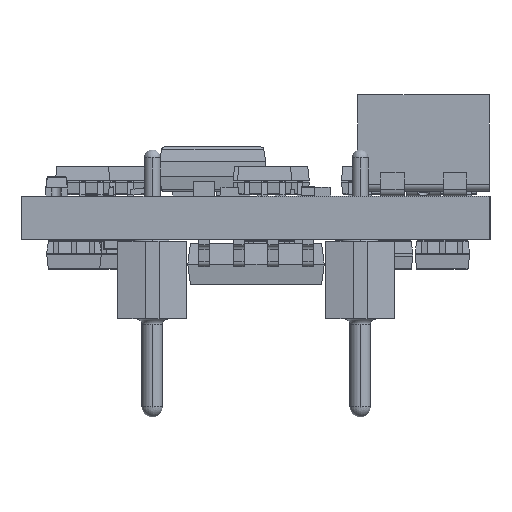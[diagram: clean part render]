
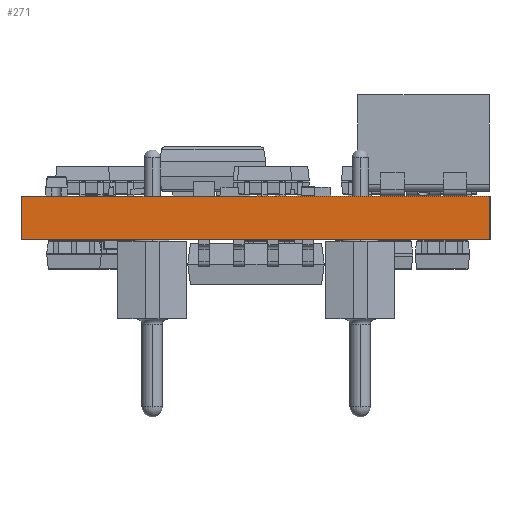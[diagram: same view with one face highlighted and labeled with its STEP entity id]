
A CAD part, left-side view. The second image highlights one B-rep face of the part: STEP entity #271.
In plain terms, the highlighted planar face has unit normal (-1, 0, 0).
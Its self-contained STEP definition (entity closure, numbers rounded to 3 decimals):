
#246 = VERTEX_POINT('',#247);
#247 = CARTESIAN_POINT('',(0.,0.,-1.589));
#253 = EDGE_CURVE('',#254,#246,#256,.T.);
#254 = VERTEX_POINT('',#255);
#255 = CARTESIAN_POINT('',(0.,0.,0.));
#256 = LINE('',#257,#258);
#257 = CARTESIAN_POINT('',(0.,0.,0.));
#258 = VECTOR('',#259,1.);
#259 = DIRECTION('',(0.,0.,-1.));
#271 = ADVANCED_FACE('',(#272),#297,.F.);
#272 = FACE_BOUND('',#273,.F.);
#273 = EDGE_LOOP('',(#274,#275,#283,#291));
#274 = ORIENTED_EDGE('',*,*,#253,.T.);
#275 = ORIENTED_EDGE('',*,*,#276,.T.);
#276 = EDGE_CURVE('',#246,#277,#279,.T.);
#277 = VERTEX_POINT('',#278);
#278 = CARTESIAN_POINT('',(0.,17.145,-1.589));
#279 = LINE('',#280,#281);
#280 = CARTESIAN_POINT('',(0.,0.,-1.589));
#281 = VECTOR('',#282,1.);
#282 = DIRECTION('',(0.,1.,0.));
#283 = ORIENTED_EDGE('',*,*,#284,.F.);
#284 = EDGE_CURVE('',#285,#277,#287,.T.);
#285 = VERTEX_POINT('',#286);
#286 = CARTESIAN_POINT('',(0.,17.145,0.));
#287 = LINE('',#288,#289);
#288 = CARTESIAN_POINT('',(0.,17.145,0.));
#289 = VECTOR('',#290,1.);
#290 = DIRECTION('',(0.,0.,-1.));
#291 = ORIENTED_EDGE('',*,*,#292,.F.);
#292 = EDGE_CURVE('',#254,#285,#293,.T.);
#293 = LINE('',#294,#295);
#294 = CARTESIAN_POINT('',(0.,0.,0.));
#295 = VECTOR('',#296,1.);
#296 = DIRECTION('',(0.,1.,0.));
#297 = PLANE('',#298);
#298 = AXIS2_PLACEMENT_3D('',#299,#300,#301);
#299 = CARTESIAN_POINT('',(0.,0.,0.));
#300 = DIRECTION('',(1.,0.,0.));
#301 = DIRECTION('',(0.,1.,0.));
